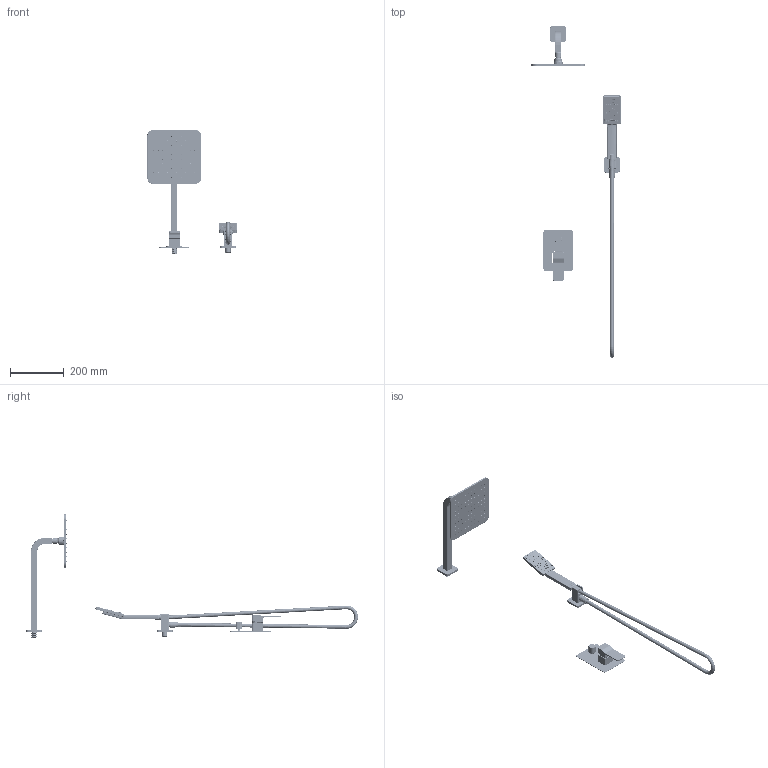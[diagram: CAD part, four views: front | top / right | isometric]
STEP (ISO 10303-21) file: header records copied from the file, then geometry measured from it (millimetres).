
FILE_DESCRIPTION(/* description */ (''),/* implementation_level */ '2;1');
FILE_NAME(/* name */ 'c:\worker\convert-fusion-r03\tmp\job-1\98\output\files\cc240aee-b443-4a42-9a3e-242fc74b96e7\ea59f646-a2f4-411e-b8cf-b550ab3e3588.stp',/* time_stamp */ '2020-04-27T09:37:17+00:00',/* author */ (''),/* organization */ (''),/* preprocessor_version */ 'ST-DEVELOPER v18.1',/* originating_system */ 'Autodesk Translation Framework v9.2.0.1227',/* authorisation */ '');
FILE_SCHEMA (('AUTOMOTIVE_DESIGN { 1 0 10303 214 3 1 1 }'));
Products named in the file (7): !SYS SL12GR; Raczka v1; !RA15 v1; !8815 v4; waz v1 (1) (1); !WG220/O v2; !JimJim-R v2
Assembly tree (6 placements, depth 2):
  !SYS SL12GR
    Raczka v1
    !RA15 v1
    !8815 v4
    waz v1 (1) (1)
    !WG220/O v2
    !JimJim-R v2
Bounding box: 332.49 x 1237.43 x 461.25 mm (x, y, z)
Volume: 713703.4 mm3; surface area: 614232.7 mm2
Topology: 78 solids, 79 shells, 8773 faces, 22782 edges, 14377 vertices
Faces by surface type: plane 2632, cylinder 2447, torus 1482, cone 1094, bspline 1008, sphere 110
Full cylindrical faces by diameter (mm): 0.7 x15, 1.7 x8, 2.5 x23, 2.6 x8, 3 x23, 3.2 x2, 3.5 x110, 4 x1, 4.2 x100, 4.5 x1, 5 x15, 5.5 x15, 6 x15, 6.2 x1, 7 x16, 9 x1, 10 x1, 10.3 x1, 11 x1, 11.8 x1, 12 x2, 12.5 x1, 12.8 x1, 13 x3, 13.6 x1, 14 x8, 15 x1, 15.5 x1, 15.9 x1, 16.5 x1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
Entity records: 388704 total; most frequent: CARTESIAN_POINT 170988, DIRECTION 47217, ORIENTED_EDGE 45260, EDGE_CURVE 22656, AXIS2_PLACEMENT_3D 18799, VERTEX_POINT 14377, CIRCLE 10568, EDGE_LOOP 9914
